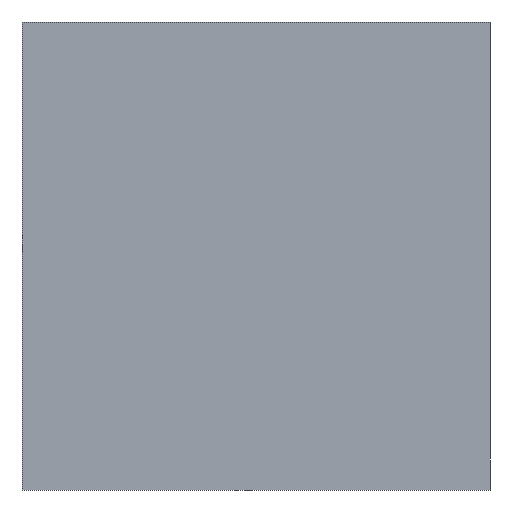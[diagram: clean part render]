
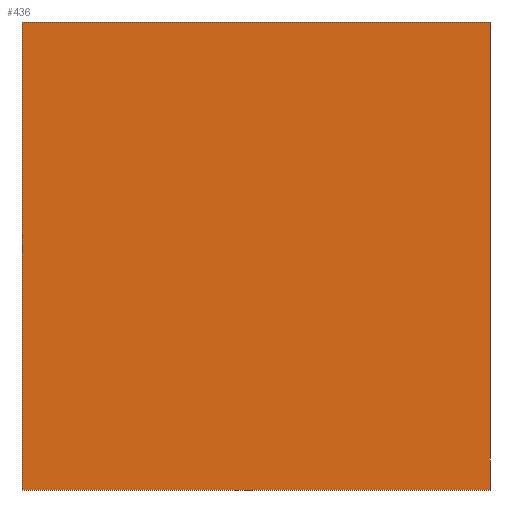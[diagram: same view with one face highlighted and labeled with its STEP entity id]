
A CAD part, front view. The second image highlights one B-rep face of the part: STEP entity #436.
In plain terms, the highlighted planar face has unit normal (0, -1, 0).
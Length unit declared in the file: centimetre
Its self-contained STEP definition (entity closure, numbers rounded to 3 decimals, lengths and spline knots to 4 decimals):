
#13 = ORIENTED_EDGE ( 'NONE', *, *, #77, .F. ) ;
#25 = CARTESIAN_POINT ( 'NONE',  ( 1000., 0., 1000. ) ) ;
#26 = DIRECTION ( 'NONE',  ( 0., 0., -1. ) ) ;
#33 = CARTESIAN_POINT ( 'NONE',  ( 0., 0., 0. ) ) ;
#64 = CARTESIAN_POINT ( 'NONE',  ( 0., 0., 1000. ) ) ;
#65 = VECTOR ( 'NONE', #140, 100. ) ;
#77 = EDGE_CURVE ( 'NONE', #477, #407, #99, .T. ) ;
#95 = CARTESIAN_POINT ( 'NONE',  ( 0., 0., 1000. ) ) ;
#99 = LINE ( 'NONE', #261, #462 ) ;
#107 = ORIENTED_EDGE ( 'NONE', *, *, #194, .T. ) ;
#111 = LINE ( 'NONE', #33, #509 ) ;
#125 = ORIENTED_EDGE ( 'NONE', *, *, #336, .T. ) ;
#129 = EDGE_CURVE ( 'NONE', #361, #477, #442, .T. ) ;
#136 = CARTESIAN_POINT ( 'NONE',  ( 0., 0., 0. ) ) ;
#140 = DIRECTION ( 'NONE',  ( 0., 0., -1. ) ) ;
#162 = VERTEX_POINT ( 'NONE', #136 ) ;
#163 = ORIENTED_EDGE ( 'NONE', *, *, #129, .F. ) ;
#194 = EDGE_CURVE ( 'NONE', #361, #162, #232, .T. ) ;
#220 = CARTESIAN_POINT ( 'NONE',  ( 0., 0., 1000. ) ) ;
#232 = LINE ( 'NONE', #64, #65 ) ;
#261 = CARTESIAN_POINT ( 'NONE',  ( 1000., 0., 1000. ) ) ;
#268 = DIRECTION ( 'NONE',  ( 0., 0., 1. ) ) ;
#275 = FACE_OUTER_BOUND ( 'NONE', #282, .T. ) ;
#282 = EDGE_LOOP ( 'NONE', ( #125, #13, #163, #107 ) ) ;
#307 = CARTESIAN_POINT ( 'NONE',  ( 1000., 0., 0. ) ) ;
#336 = EDGE_CURVE ( 'NONE', #162, #407, #111, .T. ) ;
#361 = VERTEX_POINT ( 'NONE', #501 ) ;
#395 = DIRECTION ( 'NONE',  ( 1., 0., 0. ) ) ;
#405 = PLANE ( 'NONE',  #542 ) ;
#407 = VERTEX_POINT ( 'NONE', #307 ) ;
#436 = ADVANCED_FACE ( 'NONE', ( #275 ), #405, .F. ) ;
#442 = LINE ( 'NONE', #220, #520 ) ;
#444 = DIRECTION ( 'NONE',  ( 0., 1., 0. ) ) ;
#462 = VECTOR ( 'NONE', #26, 100. ) ;
#477 = VERTEX_POINT ( 'NONE', #25 ) ;
#501 = CARTESIAN_POINT ( 'NONE',  ( 0., 0., 1000. ) ) ;
#509 = VECTOR ( 'NONE', #539, 100. ) ;
#520 = VECTOR ( 'NONE', #395, 100. ) ;
#539 = DIRECTION ( 'NONE',  ( 1., 0., 0. ) ) ;
#542 = AXIS2_PLACEMENT_3D ( 'NONE', #95, #444, #268 ) ;
